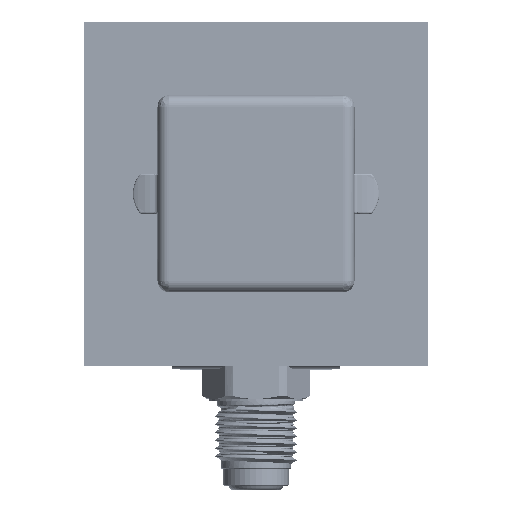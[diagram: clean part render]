
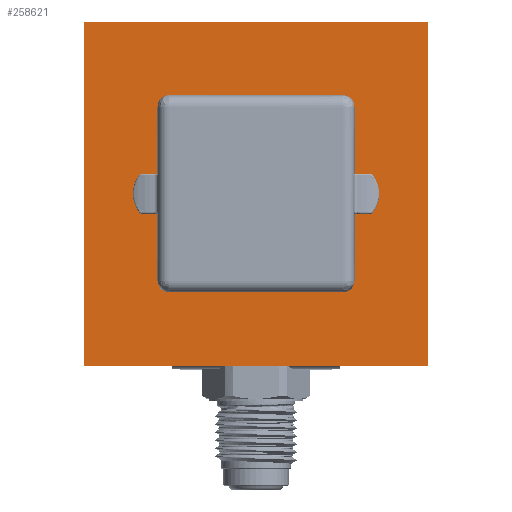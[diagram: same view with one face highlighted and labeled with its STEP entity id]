
A CAD part, top view. The second image highlights one B-rep face of the part: STEP entity #258621.
In plain terms, the highlighted planar face has unit normal (0, 0, 1).
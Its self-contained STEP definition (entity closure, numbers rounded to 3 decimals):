
#4054 = VERTEX_POINT ( 'NONE', #374139 ) ;
#22133 = CARTESIAN_POINT ( 'NONE',  ( 30., -30., 0. ) ) ;
#22699 = EDGE_CURVE ( 'NONE', #131308, #110474, #34346, .T. ) ;
#27814 = EDGE_CURVE ( 'NONE', #254987, #548938, #249964, .T. ) ;
#30002 = DIRECTION ( 'NONE',  ( 1., 0., 0. ) ) ;
#31035 = FACE_OUTER_BOUND ( 'NONE', #374914, .T. ) ;
#31390 = CARTESIAN_POINT ( 'NONE',  ( -30., 30., 0. ) ) ;
#31967 = CARTESIAN_POINT ( 'NONE',  ( -30., -30., 0. ) ) ;
#32313 = ORIENTED_EDGE ( 'NONE', *, *, #495497, .T. ) ;
#34346 = LINE ( 'NONE', #380381, #72632 ) ;
#37804 = ORIENTED_EDGE ( 'NONE', *, *, #210467, .F. ) ;
#50548 = ORIENTED_EDGE ( 'NONE', *, *, #504230, .T. ) ;
#72632 = VECTOR ( 'NONE', #485598, 1000. ) ;
#77925 = FACE_BOUND ( 'NONE', #485981, .T. ) ;
#110474 = VERTEX_POINT ( 'NONE', #423569 ) ;
#131308 = VERTEX_POINT ( 'NONE', #268490 ) ;
#138812 = VECTOR ( 'NONE', #538918, 1000. ) ;
#146859 = AXIS2_PLACEMENT_3D ( 'NONE', #250982, #514751, #253839 ) ;
#150073 = ORIENTED_EDGE ( 'NONE', *, *, #279243, .T. ) ;
#163744 = CARTESIAN_POINT ( 'NONE',  ( 30., 30., 0. ) ) ;
#164066 = ORIENTED_EDGE ( 'NONE', *, *, #204124, .F. ) ;
#175520 = DIRECTION ( 'NONE',  ( 0., 1., 0. ) ) ;
#185082 = CARTESIAN_POINT ( 'NONE',  ( -15.25, 15.25, 0. ) ) ;
#192575 = ORIENTED_EDGE ( 'NONE', *, *, #370718, .F. ) ;
#204124 = EDGE_CURVE ( 'NONE', #4054, #284609, #498644, .T. ) ;
#205917 = CARTESIAN_POINT ( 'NONE',  ( -30., -30., 0. ) ) ;
#210467 = EDGE_CURVE ( 'NONE', #284609, #131308, #444908, .T. ) ;
#210781 = DIRECTION ( 'NONE',  ( 0., -1., 0. ) ) ;
#212926 = VECTOR ( 'NONE', #30002, 1000. ) ;
#249964 = LINE ( 'NONE', #205917, #212926 ) ;
#250982 = CARTESIAN_POINT ( 'NONE',  ( 0., 0., 0. ) ) ;
#253839 = DIRECTION ( 'NONE',  ( 0., -1., 0. ) ) ;
#254987 = VERTEX_POINT ( 'NONE', #486241 ) ;
#258621 = ADVANCED_FACE ( 'NONE', ( #77925, #31035 ), #561660, .F. ) ;
#260604 = LINE ( 'NONE', #439301, #534532 ) ;
#264430 = LINE ( 'NONE', #267310, #458825 ) ;
#267310 = CARTESIAN_POINT ( 'NONE',  ( 15.25, -15.25, 0. ) ) ;
#268467 = VERTEX_POINT ( 'NONE', #163744 ) ;
#268490 = CARTESIAN_POINT ( 'NONE',  ( -15.25, -15.25, 0. ) ) ;
#279243 = EDGE_CURVE ( 'NONE', #548938, #268467, #260604, .T. ) ;
#284609 = VERTEX_POINT ( 'NONE', #532604 ) ;
#334181 = VECTOR ( 'NONE', #390107, 1000. ) ;
#360090 = CARTESIAN_POINT ( 'NONE',  ( -30., 30., 0. ) ) ;
#370718 = EDGE_CURVE ( 'NONE', #110474, #4054, #264430, .T. ) ;
#374139 = CARTESIAN_POINT ( 'NONE',  ( 15.25, 15.25, 0. ) ) ;
#374914 = EDGE_LOOP ( 'NONE', ( #150073, #50548, #32313, #438764 ) ) ;
#380381 = CARTESIAN_POINT ( 'NONE',  ( -15.25, -15.25, 0. ) ) ;
#390107 = DIRECTION ( 'NONE',  ( 0., -1., 0. ) ) ;
#423569 = CARTESIAN_POINT ( 'NONE',  ( 15.25, -15.25, 0. ) ) ;
#433492 = LINE ( 'NONE', #31967, #510866 ) ;
#437367 = DIRECTION ( 'NONE',  ( 0., 1., 0. ) ) ;
#438764 = ORIENTED_EDGE ( 'NONE', *, *, #27814, .T. ) ;
#439301 = CARTESIAN_POINT ( 'NONE',  ( 30., -30., 0. ) ) ;
#444908 = LINE ( 'NONE', #538670, #334181 ) ;
#458825 = VECTOR ( 'NONE', #437367, 1000. ) ;
#463355 = DIRECTION ( 'NONE',  ( -1., 0., 0. ) ) ;
#485598 = DIRECTION ( 'NONE',  ( 1., 0., 0. ) ) ;
#485981 = EDGE_LOOP ( 'NONE', ( #164066, #192575, #488167, #37804 ) ) ;
#486241 = CARTESIAN_POINT ( 'NONE',  ( -30., -30., 0. ) ) ;
#488167 = ORIENTED_EDGE ( 'NONE', *, *, #22699, .F. ) ;
#495497 = EDGE_CURVE ( 'NONE', #548032, #254987, #433492, .T. ) ;
#498644 = LINE ( 'NONE', #185082, #558531 ) ;
#504230 = EDGE_CURVE ( 'NONE', #268467, #548032, #550488, .T. ) ;
#510866 = VECTOR ( 'NONE', #210781, 1000. ) ;
#514751 = DIRECTION ( 'NONE',  ( 0., 0., -1. ) ) ;
#532604 = CARTESIAN_POINT ( 'NONE',  ( -15.25, 15.25, 0. ) ) ;
#534532 = VECTOR ( 'NONE', #175520, 1000. ) ;
#538670 = CARTESIAN_POINT ( 'NONE',  ( -15.25, -15.25, 0. ) ) ;
#538918 = DIRECTION ( 'NONE',  ( -1., 0., 0. ) ) ;
#548032 = VERTEX_POINT ( 'NONE', #31390 ) ;
#548938 = VERTEX_POINT ( 'NONE', #22133 ) ;
#550488 = LINE ( 'NONE', #360090, #138812 ) ;
#558531 = VECTOR ( 'NONE', #463355, 1000. ) ;
#561660 = PLANE ( 'NONE',  #146859 ) ;
